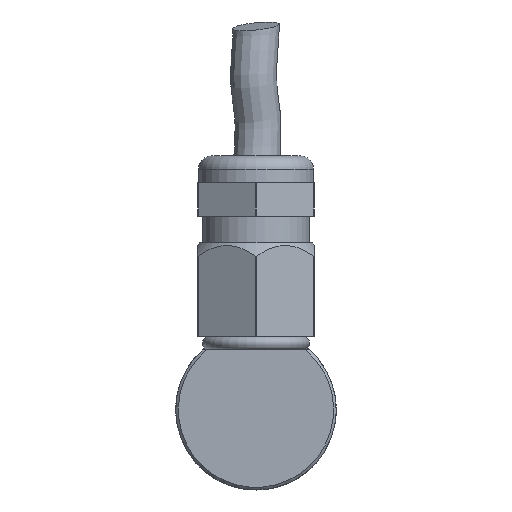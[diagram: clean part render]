
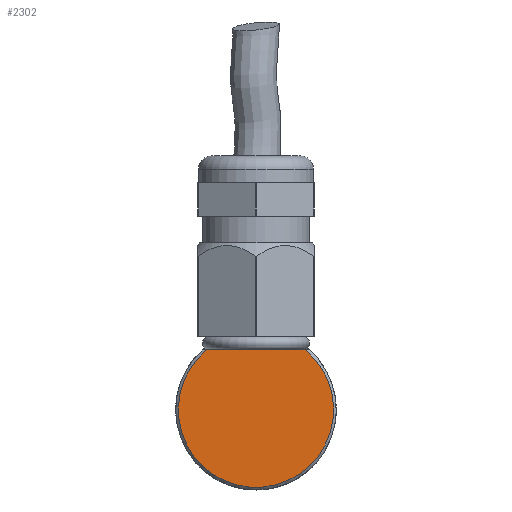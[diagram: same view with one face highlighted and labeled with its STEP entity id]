
A CAD part, left-side view. The second image highlights one B-rep face of the part: STEP entity #2302.
In plain terms, the highlighted planar face has unit normal (-1, 0, 0).
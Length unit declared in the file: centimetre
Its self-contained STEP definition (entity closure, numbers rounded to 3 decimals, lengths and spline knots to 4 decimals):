
#678=PLANE('',#2450);
#771=VECTOR('',#2745,1.);
#891=LINE('',#4035,#771);
#1080=VERTEX_POINT('',#4027);
#1081=VERTEX_POINT('',#4031);
#1183=CIRCLE('',#2447,0.58);
#1367=EDGE_CURVE('',#1081,#1080,#1183,.T.);
#1369=EDGE_CURVE('',#1081,#1080,#891,.T.);
#1726=ORIENTED_EDGE('',*,*,#1367,.F.);
#1727=ORIENTED_EDGE('',*,*,#1369,.T.);
#2045=EDGE_LOOP('',(#1726,#1727));
#2177=FACE_BOUND('',#2045,.T.);
#2302=ADVANCED_FACE('',(#2177),#678,.T.);
#2447=AXIS2_PLACEMENT_3D('',#4032,#2741,#2742);
#2450=AXIS2_PLACEMENT_3D('',#4037,#2747,$);
#2741=DIRECTION('',(1.,0.,0.));
#2742=DIRECTION('',(0.,0.,-0.58));
#2745=DIRECTION('',(0.,1.,0.));
#2747=DIRECTION('',(-1.,0.,0.));
#4027=CARTESIAN_POINT('',(0.,0.3693,0.4472));
#4031=CARTESIAN_POINT('',(0.,-0.3693,0.4472));
#4032=CARTESIAN_POINT('',(0.,0.,0.));
#4035=CARTESIAN_POINT('',(0.,2.775,0.4472));
#4037=CARTESIAN_POINT('',(0.,0.,-0.25));
